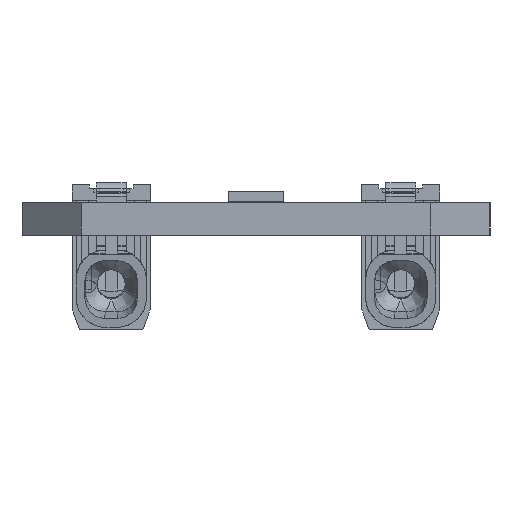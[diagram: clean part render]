
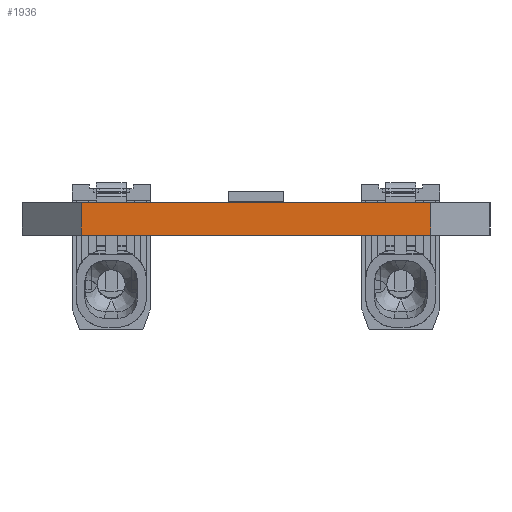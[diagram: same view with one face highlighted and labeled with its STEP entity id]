
A CAD part, left-side view. The second image highlights one B-rep face of the part: STEP entity #1936.
In plain terms, the highlighted planar face has unit normal (-1, 0, 0).
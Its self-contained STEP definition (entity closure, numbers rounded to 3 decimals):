
#254=DIRECTION('',(0.,1.,0.));
#255=VECTOR('',#254,17.6);
#256=CARTESIAN_POINT('',(-279.5,-8.8,0.));
#257=LINE('',#256,#255);
#583=DIRECTION('',(0.,0.,1.));
#584=VECTOR('',#583,1.65);
#585=CARTESIAN_POINT('',(-279.5,-8.8,0.));
#586=LINE('',#585,#584);
#587=DIRECTION('',(0.,1.,0.));
#588=VECTOR('',#587,17.6);
#589=CARTESIAN_POINT('',(-279.5,-8.8,1.65));
#590=LINE('',#589,#588);
#591=DIRECTION('',(0.,0.,1.));
#592=VECTOR('',#591,1.65);
#593=CARTESIAN_POINT('',(-279.5,8.8,0.));
#594=LINE('',#593,#592);
#1352=CARTESIAN_POINT('',(-279.5,-8.8,0.));
#1354=VERTEX_POINT('',#1352);
#1381=CARTESIAN_POINT('',(-279.5,8.8,0.));
#1383=VERTEX_POINT('',#1381);
#1465=CARTESIAN_POINT('',(-279.5,-8.8,1.65));
#1466=VERTEX_POINT('',#1465);
#1535=CARTESIAN_POINT('',(-279.5,8.8,1.65));
#1536=VERTEX_POINT('',#1535);
#1923=CARTESIAN_POINT('',(-279.5,8.8,1.65));
#1924=DIRECTION('',(-1.,0.,0.));
#1925=DIRECTION('',(0.,0.,1.));
#1926=AXIS2_PLACEMENT_3D('',#1923,#1924,#1925);
#1927=PLANE('',#1926);
#1928=ORIENTED_EDGE('',*,*,#1916,.F.);
#1929=ORIENTED_EDGE('',*,*,#1621,.T.);
#1931=ORIENTED_EDGE('',*,*,#1930,.T.);
#1933=ORIENTED_EDGE('',*,*,#1932,.F.);
#1934=EDGE_LOOP('',(#1928,#1929,#1931,#1933));
#1935=FACE_OUTER_BOUND('',#1934,.F.);
#1936=ADVANCED_FACE('',(#1935),#1927,.T.);
#1621=EDGE_CURVE('',#1354,#1383,#257,.T.);
#1916=EDGE_CURVE('',#1354,#1466,#586,.T.);
#1930=EDGE_CURVE('',#1383,#1536,#594,.T.);
#1932=EDGE_CURVE('',#1466,#1536,#590,.T.);
